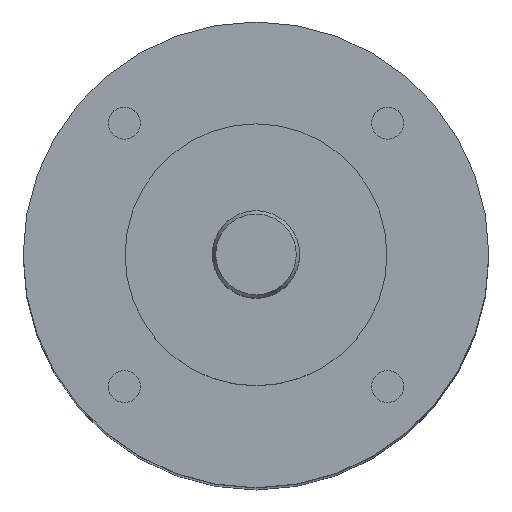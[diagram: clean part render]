
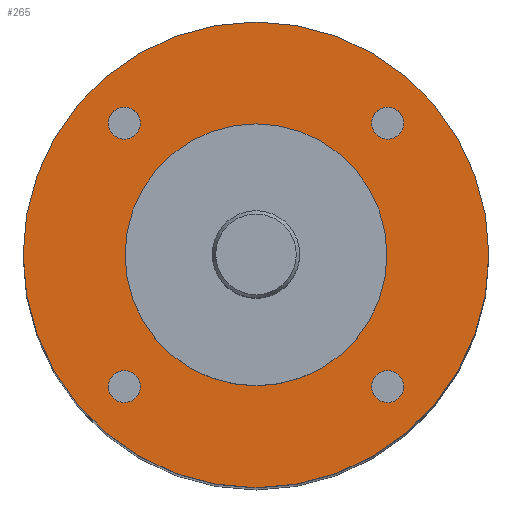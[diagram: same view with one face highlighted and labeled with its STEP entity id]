
A CAD part, top view. The second image highlights one B-rep face of the part: STEP entity #265.
In plain terms, the highlighted planar face has unit normal (0, 0, 1).
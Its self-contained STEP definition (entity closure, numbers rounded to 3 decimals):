
#209=PLANE('',#1068);
#265=ADVANCED_FACE('AS_FLANSCH',(#346,#347,#348,#349,#350,#351),#209,.T.);
#346=FACE_BOUND('',#437,.T.);
#347=FACE_BOUND('',#438,.T.);
#348=FACE_BOUND('',#439,.T.);
#349=FACE_BOUND('',#440,.T.);
#350=FACE_BOUND('',#441,.T.);
#351=FACE_BOUND('',#442,.T.);
#437=EDGE_LOOP('',(#671));
#438=EDGE_LOOP('',(#672));
#439=EDGE_LOOP('',(#673));
#440=EDGE_LOOP('',(#674));
#441=EDGE_LOOP('',(#675));
#442=EDGE_LOOP('',(#676));
#671=ORIENTED_EDGE('',*,*,#891,.T.);
#672=ORIENTED_EDGE('',*,*,#892,.T.);
#673=ORIENTED_EDGE('',*,*,#893,.T.);
#674=ORIENTED_EDGE('',*,*,#894,.T.);
#675=ORIENTED_EDGE('',*,*,#895,.F.);
#676=ORIENTED_EDGE('',*,*,#792,.F.);
#703=VERTEX_POINT('',#1410);
#774=VERTEX_POINT('',#1627);
#775=VERTEX_POINT('',#1629);
#776=VERTEX_POINT('',#1631);
#777=VERTEX_POINT('',#1633);
#778=VERTEX_POINT('',#1635);
#792=EDGE_CURVE('',#703,#703,#909,.T.);
#891=EDGE_CURVE('',#774,#774,#952,.T.);
#892=EDGE_CURVE('',#775,#775,#953,.T.);
#893=EDGE_CURVE('',#776,#776,#954,.T.);
#894=EDGE_CURVE('',#777,#777,#955,.T.);
#895=EDGE_CURVE('',#778,#778,#956,.T.);
#909=CIRCLE('',#973,8.);
#952=CIRCLE('',#1063,0.55);
#953=CIRCLE('',#1064,0.55);
#954=CIRCLE('',#1065,0.55);
#955=CIRCLE('',#1066,0.55);
#956=CIRCLE('',#1067,4.5);
#973=AXIS2_PLACEMENT_3D('',#1409,#1106,#1107);
#1063=AXIS2_PLACEMENT_3D('',#1626,#1342,#1343);
#1064=AXIS2_PLACEMENT_3D('',#1628,#1344,#1345);
#1065=AXIS2_PLACEMENT_3D('',#1630,#1346,#1347);
#1066=AXIS2_PLACEMENT_3D('',#1632,#1348,#1349);
#1067=AXIS2_PLACEMENT_3D('',#1634,#1350,#1351);
#1068=AXIS2_PLACEMENT_3D('',#1636,#1352,#1353);
#1106=DIRECTION('',(0.,0.,-1.));
#1107=DIRECTION('',(1.,0.,0.));
#1342=DIRECTION('',(0.,0.,-1.));
#1343=DIRECTION('',(-1.,0.,0.));
#1344=DIRECTION('',(0.,0.,-1.));
#1345=DIRECTION('',(-1.,0.,0.));
#1346=DIRECTION('',(0.,0.,-1.));
#1347=DIRECTION('',(-1.,0.,0.));
#1348=DIRECTION('',(0.,0.,-1.));
#1349=DIRECTION('',(-1.,0.,0.));
#1350=DIRECTION('',(0.,0.,1.));
#1351=DIRECTION('',(1.,0.,0.));
#1352=DIRECTION('',(0.,0.,1.));
#1353=DIRECTION('',(1.,0.,0.));
#1409=CARTESIAN_POINT('',(0.,0.,3.));
#1410=CARTESIAN_POINT('',(8.,0.,3.));
#1626=CARTESIAN_POINT('',(4.525,4.525,3.));
#1627=CARTESIAN_POINT('',(3.975,4.525,3.));
#1628=CARTESIAN_POINT('',(4.525,-4.525,3.));
#1629=CARTESIAN_POINT('',(3.975,-4.525,3.));
#1630=CARTESIAN_POINT('',(-4.525,-4.525,3.));
#1631=CARTESIAN_POINT('',(-5.075,-4.525,3.));
#1632=CARTESIAN_POINT('',(-4.525,4.525,3.));
#1633=CARTESIAN_POINT('',(-5.075,4.525,3.));
#1634=CARTESIAN_POINT('',(0.,0.,3.));
#1635=CARTESIAN_POINT('',(4.5,0.,3.));
#1636=CARTESIAN_POINT('',(0.,0.,3.));
